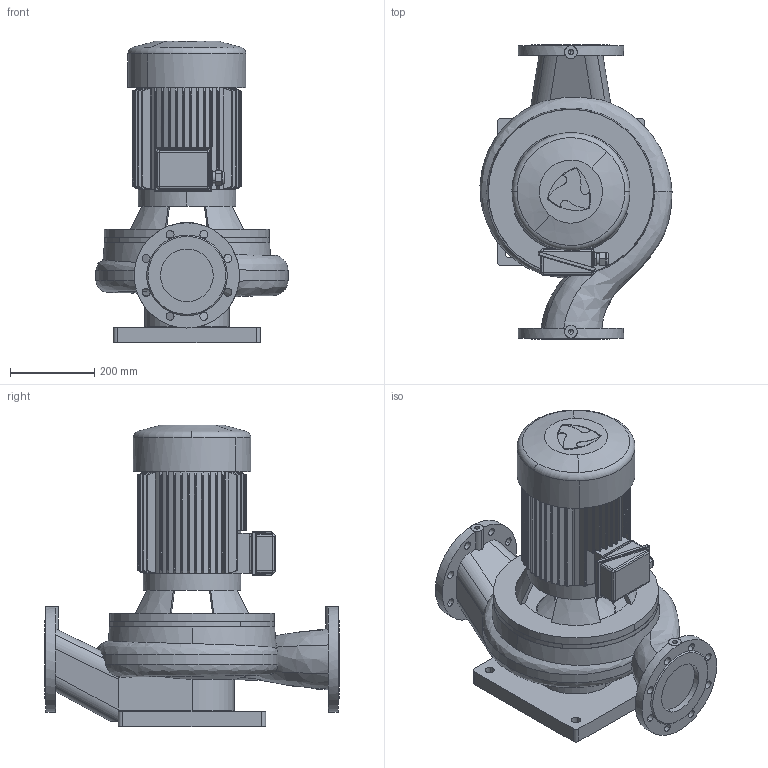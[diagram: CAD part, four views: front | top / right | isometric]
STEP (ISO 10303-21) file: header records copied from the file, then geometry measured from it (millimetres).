
FILE_DESCRIPTION(('STEP AP214'),'1');
FILE_NAME('export.stp','2018-05-28T11:57:56',(' '),(' '),'Spatial InterOp 3D',' ',' ');
FILE_SCHEMA(('AUTOMOTIVE_DESIGN { 1 0 10303 214 1 1 1 1 }'));
Length unit declared in the file: millimetre
Products named in the file (11): W_AL11284550KP133; V_TLL100SAL1202; V_PPALP1128; PP_ALP1128_kesken; Tukijalka_ALP1128; V_MOKN133; RU_OKN_133; TSUOJA_OKN_132_133; KYTKOTELO_OKN_100_133; V_MKP133-G2-F31; V_EKF31OKN132133
Assembly tree (10 placements, depth 4):
  W_AL11284550KP133
    V_TLL100SAL1202
    V_PPALP1128
      PP_ALP1128_kesken
      Tukijalka_ALP1128
    V_MKP133-G2-F31
      V_MOKN133
        RU_OKN_133
        TSUOJA_OKN_132_133
        KYTKOTELO_OKN_100_133
      V_EKF31OKN132133
Bounding box: 455.93 x 700 x 716 mm (x, y, z)
Volume: 52377549.8 mm3; surface area: 2691376.4 mm2
Topology: 7 solids, 8 shells, 680 faces, 1761 edges, 1094 vertices
Faces by surface type: cylinder 312, plane 237, cone 94, bspline 13, torus 12, sphere 12
Entity records: 37118 total; most frequent: CARTESIAN_POINT 8253, ORIENTED_EDGE 3490, DIRECTION 3340, STYLED_ITEM 2113, PRESENTATION_STYLE_ASSIGNMENT 2113, COLOUR_RGB 2113, EDGE_CURVE 1745, CURVE_STYLE 1426
